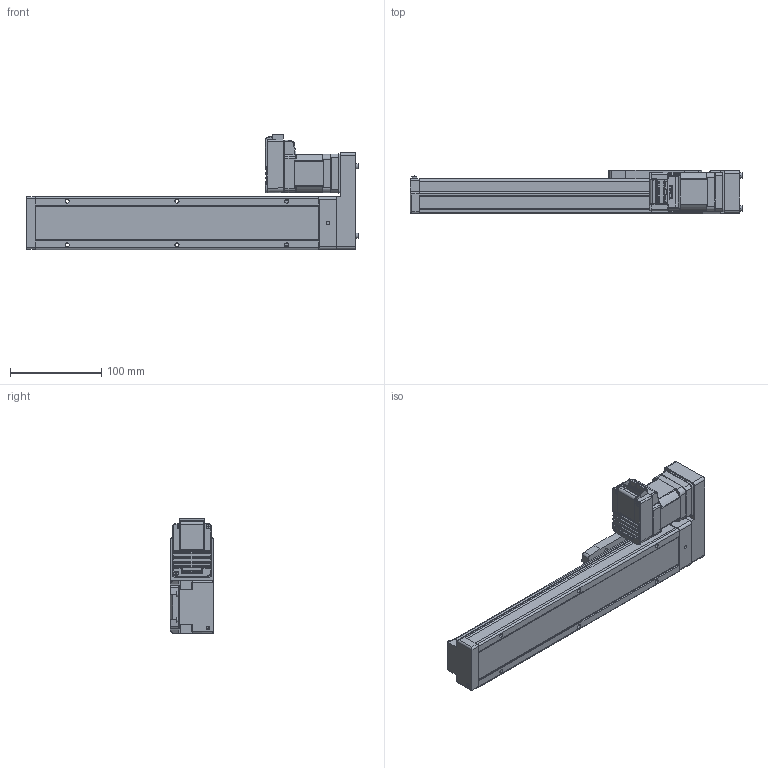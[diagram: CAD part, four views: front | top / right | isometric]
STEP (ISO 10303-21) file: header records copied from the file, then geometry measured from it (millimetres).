
FILE_DESCRIPTION (( 'STEP AP214' ), '1' );
FILE_NAME ('LEFS3(+)-25LNM1□-200-17L.STEP', '2023-05-31T05:08:22', ( '' ), ( '' ), 'SwSTEP 2.0', 'SolidWorks 2019', '' );
FILE_SCHEMA (( 'AUTOMOTIVE_DESIGN' ));
Length unit declared in the file: millimetre
Products named in the file (5): LEFS3(+)-25R(L)NM1仩_BODY_200; LEFS3(+)-25LNM1□-200-17L; LEFS3(+)-25R(L)NM1仩_MOTOR Flange; LEFS3(+)-25NM1_TABLE; CM3(+)-17L50A
Assembly tree (4 placements, depth 2):
  LEFS3(+)-25LNM1□-200-17L
    LEFS3(+)-25R(L)NM1仩_BODY_200
    LEFS3(+)-25NM1_TABLE
    LEFS3(+)-25R(L)NM1仩_MOTOR Flange
    CM3(+)-17L50A
Bounding box: 362.9 x 48 x 125.85 mm (x, y, z)
Volume: 930480.2 mm3; surface area: 132978.3 mm2
Topology: 5 solids, 5 shells, 1015 faces, 2608 edges, 1644 vertices
Faces by surface type: plane 529, cylinder 314, cone 83, torus 39, bspline 29, sphere 21
Entity records: 41513 total; most frequent: CARTESIAN_POINT 7458, ORIENTED_EDGE 5154, DIRECTION 4972, EDGE_CURVE 2577, AXIS2_PLACEMENT_3D 1670, VERTEX_POINT 1644, LINE 1632, VECTOR 1632
